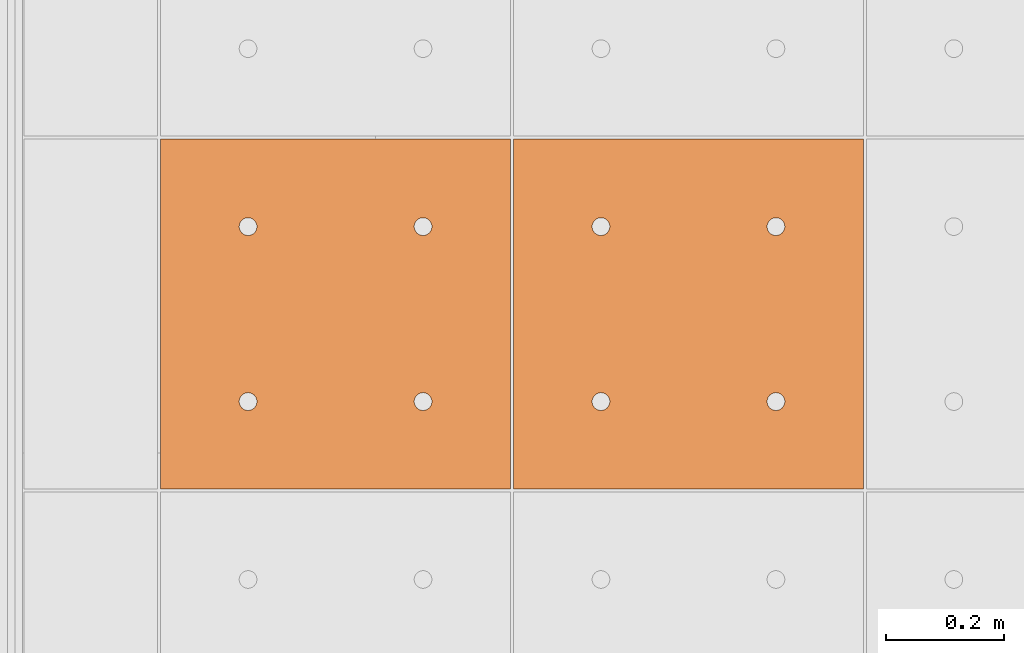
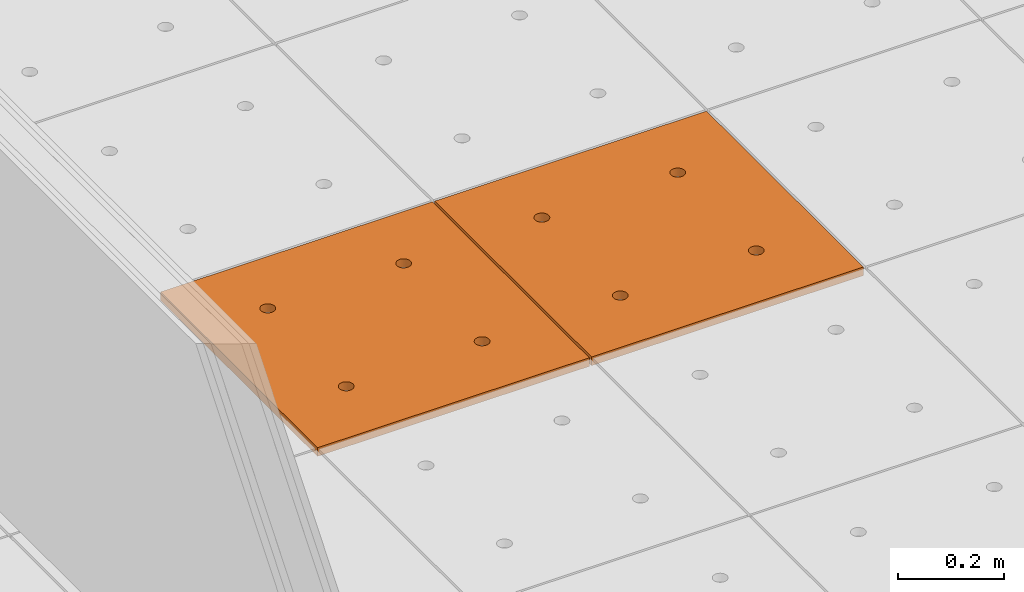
# One storey, part 270 of 338: 2 proxies, 1 element without a shape of its own.
"""IFC2X3 building model written with IfcOpenShell, lengths in millimetres."""

from ifc_helpers import new_model, entity, si_unit, converted_unit, derived_unit, money_unit, direction, frame, origin_with_axes, place, context, subcontext, project, spatial, faceted_brep, source, transform, mapped, material, type_object, type_shapes, element, aggregate, save


model = new_model("IFC2X3")

# Units and contexts
model_context = context("Model", 3, precision=0.01, world=origin_with_axes(), true_north=direction((0.0, 1.0)))
plan_context = context("Plan", 3, precision=0.01, world=origin_with_axes(), true_north=direction((0.0, 1.0)))
body_context = subcontext(model_context, "Body", "Model", "MODEL_VIEW")
ifc_project = project(units=[si_unit("LENGTHUNIT", "METRE", prefix="MILLI"), si_unit("AREAUNIT", "SQUARE_METRE"), si_unit("VOLUMEUNIT", "CUBIC_METRE"), converted_unit("PLANEANGLEUNIT", "DEGREE", entity("IfcPlaneAngleMeasure", 0.0174532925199), si_unit("PLANEANGLEUNIT", "RADIAN"), dimensions=[0, 0, 0, 0, 0, 0, 0]), money_unit("EUR"), converted_unit("TIMEUNIT", "Year", entity("IfcTimeMeasure", 31556926.0), si_unit("TIMEUNIT", "SECOND"), dimensions=[0, 0, 1, 0, 0, 0, 0]), si_unit("MASSUNIT", "GRAM", prefix="KILO"), si_unit("THERMODYNAMICTEMPERATUREUNIT", "DEGREE_CELSIUS"), si_unit("LUMINOUSINTENSITYUNIT", "LUMEN"), si_unit("ENERGYUNIT", "JOULE", prefix="MEGA"), derived_unit("THERMALCONDUCTANCEUNIT", [(si_unit("POWERUNIT", "WATT"), 1), (si_unit("LENGTHUNIT", "METRE"), -1), (si_unit("THERMODYNAMICTEMPERATUREUNIT", "KELVIN"), -1)]), derived_unit("SPECIFICHEATCAPACITYUNIT", [(si_unit("ENERGYUNIT", "JOULE"), 1), (si_unit("MASSUNIT", "GRAM", prefix="KILO"), -1), (si_unit("THERMODYNAMICTEMPERATUREUNIT", "KELVIN"), -1)]), derived_unit("MASSDENSITYUNIT", [(si_unit("MASSUNIT", "GRAM", prefix="KILO"), 1), (si_unit("VOLUMEUNIT", "CUBIC_METRE"), -1)])], contexts=[model_context, plan_context])

# Site, building, storey
site_placement = place(None, origin_with_axes())
site = spatial("IfcSite", under=ifc_project, at=site_placement, Name="Fortuinstraat Woensdrecht", CompositionType="ELEMENT")
building_placement = place(site_placement, origin_with_axes())
building = spatial("IfcBuilding", under=site, at=building_placement, Name="IKC Fortuna", CompositionType="ELEMENT")
storey_placement = place(building_placement, origin_with_axes())
storey = spatial("IfcBuildingStorey", under=building, at=storey_placement, Name="00 begane grond", CompositionType="ELEMENT", Elevation=0.0)

# Covering, proxies
covering_type = type_object("IfcCoveringType", Name="Curtain Wall Type", PredefinedType="CEILING")
covering_placement = place(storey_placement, frame((17451.9845996, 24118.5314449, 3210.0), z_axis=(0.0, 0.0, 1.0), x_axis=(1.0, 0.0, 0.0)))
covering = element("IfcCovering", 1, at=covering_placement, inside=storey, type_object=covering_type, Name="45_Plafondafwerking_P01", PredefinedType="CEILING")
ifc_material = material(Name="Gipsplaat")
building_element_proxy_type = type_object("IfcBuildingElementProxyType", Name="Main Panel 600 x 600 x 20", PredefinedType="NOTDEFINED")
shared_shape = source(origin_with_axes(), body_context, "Body", "Brep", [
    faceted_brep([(2.49999999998, 2.49999999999, -10.0), (300.0, 2.49999999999, -10.0), (300.0, 2.49999999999, 10.0), (2.49999999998, 2.49999999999, 10.0), (2.49999999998, 300.0, -10.0), (2.49999999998, 597.5, -10.0), (300.0, 597.5, -10.0), (597.5, 597.5, -10.0), (597.5, 300.0, -10.0), (597.5, 2.49999999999, -10.0), (166.25, 450.06232995, -10.0), (165.79423259, 452.64711538, -10.0), (164.896546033, 455.11348892, -10.0), (163.58421608, 457.38651108, -10.0), (161.897117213, 459.39711721, -10.0), (159.886511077, 461.08421608, -10.0), (157.613488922, 462.39654603, -10.0), (155.147115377, 463.29423259, -10.0), (152.562329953, 463.75, -10.0), (149.937670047, 463.75, -10.0), (147.352884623, 463.29423259, -10.0), (144.886511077, 462.39654603, -10.0), (142.613488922, 461.08421608, -10.0), (140.602882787, 459.39711721, -10.0), (138.91578392, 457.38651108, -10.0), (137.603453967, 455.11348892, -10.0), (136.705767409, 452.64711538, -10.0), (136.25, 450.06232995, -10.0), (136.25, 448.75, -10.0), (136.25, 447.43767005, -10.0), (136.705767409, 444.85288462, -10.0), (137.603453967, 442.38651108, -10.0), (138.91578392, 440.11348892, -10.0), (140.602882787, 438.10288279, -10.0), (142.613488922, 436.41578392, -10.0), (144.886511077, 435.10345397, -10.0), (147.352884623, 434.20576741, -10.0), (149.937670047, 433.75, -10.0), (152.562329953, 433.75, -10.0), (155.147115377, 434.20576741, -10.0), (157.613488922, 435.10345397, -10.0), (159.886511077, 436.41578392, -10.0), (161.897117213, 438.10288279, -10.0), (163.58421608, 440.11348892, -10.0), (164.896546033, 442.38651108, -10.0), (165.79423259, 444.85288462, -10.0), (166.25, 447.43767005, -10.0), (463.75, 450.06232995, -10.0), (463.29423259, 452.64711538, -10.0), (462.396546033, 455.11348892, -10.0), (461.08421608, 457.38651108, -10.0), (459.397117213, 459.39711721, -10.0), (457.386511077, 461.08421608, -10.0), (455.113488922, 462.39654603, -10.0), (452.647115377, 463.29423259, -10.0), (450.062329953, 463.75, -10.0), (447.437670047, 463.75, -10.0), (444.852884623, 463.29423259, -10.0), (442.386511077, 462.39654603, -10.0), (440.113488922, 461.08421608, -10.0), (438.102882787, 459.39711721, -10.0), (436.41578392, 457.38651108, -10.0), (435.103453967, 455.11348892, -10.0), (434.205767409, 452.64711538, -10.0), (433.75, 450.06232995, -10.0), (433.75, 448.75, -10.0), (433.75, 447.43767005, -10.0), (434.205767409, 444.85288462, -10.0), (435.103453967, 442.38651108, -10.0), (436.41578392, 440.11348892, -10.0), (438.102882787, 438.10288279, -10.0), (440.113488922, 436.41578392, -10.0), (442.386511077, 435.10345397, -10.0), (444.852884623, 434.20576741, -10.0), (447.437670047, 433.75, -10.0), (450.062329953, 433.75, -10.0), (452.647115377, 434.20576741, -10.0), (455.113488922, 435.10345397, -10.0), (457.386511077, 436.41578392, -10.0), (459.397117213, 438.10288279, -10.0), (461.08421608, 440.11348892, -10.0), (462.396546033, 442.38651108, -10.0), (463.29423259, 444.85288462, -10.0), (463.75, 447.43767005, -10.0), (463.75, 152.56232995, -10.0), (463.29423259, 155.14711538, -10.0), (462.396546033, 157.61348892, -10.0), (461.08421608, 159.88651108, -10.0), (459.397117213, 161.89711721, -10.0), (457.386511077, 163.58421608, -10.0), (455.113488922, 164.89654603, -10.0), (452.647115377, 165.79423259, -10.0), (450.062329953, 166.25, -10.0), (447.437670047, 166.25, -10.0), (444.852884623, 165.79423259, -10.0), (442.386511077, 164.89654603, -10.0), (440.113488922, 163.58421608, -10.0), (438.102882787, 161.89711721, -10.0), (436.41578392, 159.88651108, -10.0), (435.103453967, 157.61348892, -10.0), (434.205767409, 155.14711538, -10.0), (433.75, 152.56232995, -10.0), (433.75, 151.25, -10.0), (433.75, 149.93767005, -10.0), (434.205767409, 147.35288462, -10.0), (435.103453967, 144.88651108, -10.0), (436.41578392, 142.61348892, -10.0), (438.102882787, 140.60288279, -10.0), (440.113488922, 138.91578392, -10.0), (442.386511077, 137.60345397, -10.0), (444.852884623, 136.70576741, -10.0), (447.437670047, 136.25, -10.0), (450.062329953, 136.25, -10.0), (452.647115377, 136.70576741, -10.0), (455.113488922, 137.60345397, -10.0), (457.386511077, 138.91578392, -10.0), (459.397117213, 140.60288279, -10.0), (461.08421608, 142.61348892, -10.0), (462.396546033, 144.88651108, -10.0), (463.29423259, 147.35288462, -10.0), (463.75, 149.93767005, -10.0), (166.25, 152.56232995, -10.0), (165.79423259, 155.14711538, -10.0), (164.896546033, 157.61348892, -10.0), (163.58421608, 159.88651108, -10.0), (161.897117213, 161.89711721, -10.0), (159.886511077, 163.58421608, -10.0), (157.613488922, 164.89654603, -10.0), (155.147115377, 165.79423259, -10.0), (152.562329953, 166.25, -10.0), (149.937670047, 166.25, -10.0), (147.352884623, 165.79423259, -10.0), (144.886511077, 164.89654603, -10.0), (142.613488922, 163.58421608, -10.0), (140.602882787, 161.89711721, -10.0), (138.91578392, 159.88651108, -10.0), (137.603453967, 157.61348892, -10.0), (136.705767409, 155.14711538, -10.0), (136.25, 152.56232995, -10.0), (136.25, 151.25, -10.0), (136.25, 149.93767005, -10.0), (136.705767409, 147.35288462, -10.0), (137.603453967, 144.88651108, -10.0), (138.91578392, 142.61348892, -10.0), (140.602882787, 140.60288279, -10.0), (142.613488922, 138.91578392, -10.0), (144.886511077, 137.60345397, -10.0), (147.352884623, 136.70576741, -10.0), (149.937670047, 136.25, -10.0), (152.562329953, 136.25, -10.0), (155.147115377, 136.70576741, -10.0), (157.613488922, 137.60345397, -10.0), (159.886511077, 138.91578392, -10.0), (161.897117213, 140.60288279, -10.0), (163.58421608, 142.61348892, -10.0), (164.896546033, 144.88651108, -10.0), (165.79423259, 147.35288462, -10.0), (166.25, 149.93767005, -10.0), (597.5, 2.49999999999, 10.0), (597.5, 300.0, 10.0), (597.5, 597.5, 10.0), (300.0, 597.5, 10.0), (2.49999999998, 597.5, 10.0), (2.49999999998, 300.0, 10.0), (166.25, 450.06232995, 10.0), (166.25, 447.43767005, 10.0), (165.79423259, 444.85288462, 10.0), (164.896546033, 442.38651108, 10.0), (163.58421608, 440.11348892, 10.0), (161.897117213, 438.10288279, 10.0), (159.886511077, 436.41578392, 10.0), (157.613488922, 435.10345397, 10.0), (155.147115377, 434.20576741, 10.0), (152.562329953, 433.75, 10.0), (149.937670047, 433.75, 10.0), (147.352884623, 434.20576741, 10.0), (144.886511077, 435.10345397, 10.0), (142.613488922, 436.41578392, 10.0), (140.602882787, 438.10288279, 10.0), (138.91578392, 440.11348892, 10.0), (137.603453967, 442.38651108, 10.0), (136.705767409, 444.85288462, 10.0), (136.25, 447.43767005, 10.0), (136.25, 448.75, 10.0), (136.25, 450.06232995, 10.0), (136.705767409, 452.64711538, 10.0), (137.603453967, 455.11348892, 10.0), (138.91578392, 457.38651108, 10.0), (140.602882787, 459.39711721, 10.0), (142.613488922, 461.08421608, 10.0), (144.886511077, 462.39654603, 10.0), (147.352884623, 463.29423259, 10.0), (149.937670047, 463.75, 10.0), (152.562329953, 463.75, 10.0), (155.147115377, 463.29423259, 10.0), (157.613488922, 462.39654603, 10.0), (159.886511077, 461.08421608, 10.0), (161.897117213, 459.39711721, 10.0), (163.58421608, 457.38651108, 10.0), (164.896546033, 455.11348892, 10.0), (165.79423259, 452.64711538, 10.0), (463.75, 450.06232995, 10.0), (463.75, 447.43767005, 10.0), (463.29423259, 444.85288462, 10.0), (462.396546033, 442.38651108, 10.0), (461.08421608, 440.11348892, 10.0), (459.397117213, 438.10288279, 10.0), (457.386511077, 436.41578392, 10.0), (455.113488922, 435.10345397, 10.0), (452.647115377, 434.20576741, 10.0), (450.062329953, 433.75, 10.0), (447.437670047, 433.75, 10.0), (444.852884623, 434.20576741, 10.0), (442.386511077, 435.10345397, 10.0), (440.113488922, 436.41578392, 10.0), (438.102882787, 438.10288279, 10.0), (436.41578392, 440.11348892, 10.0), (435.103453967, 442.38651108, 10.0), (434.205767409, 444.85288462, 10.0), (433.75, 447.43767005, 10.0), (433.75, 448.75, 10.0), (433.75, 450.06232995, 10.0), (434.205767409, 452.64711538, 10.0), (435.103453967, 455.11348892, 10.0), (436.41578392, 457.38651108, 10.0), (438.102882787, 459.39711721, 10.0), (440.113488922, 461.08421608, 10.0), (442.386511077, 462.39654603, 10.0), (444.852884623, 463.29423259, 10.0), (447.437670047, 463.75, 10.0), (450.062329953, 463.75, 10.0), (452.647115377, 463.29423259, 10.0), (455.113488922, 462.39654603, 10.0), (457.386511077, 461.08421608, 10.0), (459.397117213, 459.39711721, 10.0), (461.08421608, 457.38651108, 10.0), (462.396546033, 455.11348892, 10.0), (463.29423259, 452.64711538, 10.0), (463.75, 152.56232995, 10.0), (463.75, 149.93767005, 10.0), (463.29423259, 147.35288462, 10.0), (462.396546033, 144.88651108, 10.0), (461.08421608, 142.61348892, 10.0), (459.397117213, 140.60288279, 10.0), (457.386511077, 138.91578392, 10.0), (455.113488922, 137.60345397, 10.0), (452.647115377, 136.70576741, 10.0), (450.062329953, 136.25, 10.0), (447.437670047, 136.25, 10.0), (444.852884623, 136.70576741, 10.0), (442.386511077, 137.60345397, 10.0), (440.113488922, 138.91578392, 10.0), (438.102882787, 140.60288279, 10.0), (436.41578392, 142.61348892, 10.0), (435.103453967, 144.88651108, 10.0), (434.205767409, 147.35288462, 10.0), (433.75, 149.93767005, 10.0), (433.75, 151.25, 10.0), (433.75, 152.56232995, 10.0), (434.205767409, 155.14711538, 10.0), (435.103453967, 157.61348892, 10.0), (436.41578392, 159.88651108, 10.0), (438.102882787, 161.89711721, 10.0), (440.113488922, 163.58421608, 10.0), (442.386511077, 164.89654603, 10.0), (444.852884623, 165.79423259, 10.0), (447.437670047, 166.25, 10.0), (450.062329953, 166.25, 10.0), (452.647115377, 165.79423259, 10.0), (455.113488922, 164.89654603, 10.0), (457.386511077, 163.58421608, 10.0), (459.397117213, 161.89711721, 10.0), (461.08421608, 159.88651108, 10.0), (462.396546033, 157.61348892, 10.0), (463.29423259, 155.14711538, 10.0), (166.25, 152.56232995, 10.0), (166.25, 149.93767005, 10.0), (165.79423259, 147.35288462, 10.0), (164.896546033, 144.88651108, 10.0), (163.58421608, 142.61348892, 10.0), (161.897117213, 140.60288279, 10.0), (159.886511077, 138.91578392, 10.0), (157.613488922, 137.60345397, 10.0), (155.147115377, 136.70576741, 10.0), (152.562329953, 136.25, 10.0), (149.937670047, 136.25, 10.0), (147.352884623, 136.70576741, 10.0), (144.886511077, 137.60345397, 10.0), (142.613488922, 138.91578392, 10.0), (140.602882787, 140.60288279, 10.0), (138.91578392, 142.61348892, 10.0), (137.603453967, 144.88651108, 10.0), (136.705767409, 147.35288462, 10.0), (136.25, 149.93767005, 10.0), (136.25, 151.25, 10.0), (136.25, 152.56232995, 10.0), (136.705767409, 155.14711538, 10.0), (137.603453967, 157.61348892, 10.0), (138.91578392, 159.88651108, 10.0), (140.602882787, 161.89711721, 10.0), (142.613488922, 163.58421608, 10.0), (144.886511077, 164.89654603, 10.0), (147.352884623, 165.79423259, 10.0), (149.937670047, 166.25, 10.0), (152.562329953, 166.25, 10.0), (155.147115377, 165.79423259, 10.0), (157.613488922, 164.89654603, 10.0), (159.886511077, 163.58421608, 10.0), (161.897117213, 161.89711721, 10.0), (163.58421608, 159.88651108, 10.0), (164.896546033, 157.61348892, 10.0), (165.79423259, 155.14711538, 10.0)], [[[0, 1, 2, 3]], [[0, 4, 5, 6, 7, 8, 9, 1], [10, 11, 12, 13, 14, 15, 16, 17, 18, 19, 20, 21, 22, 23, 24, 25, 26, 27, 28, 29, 30, 31, 32, 33, 34, 35, 36, 37, 38, 39, 40, 41, 42, 43, 44, 45, 46], [47, 48, 49, 50, 51, 52, 53, 54, 55, 56, 57, 58, 59, 60, 61, 62, 63, 64, 65, 66, 67, 68, 69, 70, 71, 72, 73, 74, 75, 76, 77, 78, 79, 80, 81, 82, 83], [84, 85, 86, 87, 88, 89, 90, 91, 92, 93, 94, 95, 96, 97, 98, 99, 100, 101, 102, 103, 104, 105, 106, 107, 108, 109, 110, 111, 112, 113, 114, 115, 116, 117, 118, 119, 120], [121, 122, 123, 124, 125, 126, 127, 128, 129, 130, 131, 132, 133, 134, 135, 136, 137, 138, 139, 140, 141, 142, 143, 144, 145, 146, 147, 148, 149, 150, 151, 152, 153, 154, 155, 156, 157]], [[1, 9, 158, 2]], [[3, 2, 158, 159, 160, 161, 162, 163], [164, 165, 166, 167, 168, 169, 170, 171, 172, 173, 174, 175, 176, 177, 178, 179, 180, 181, 182, 183, 184, 185, 186, 187, 188, 189, 190, 191, 192, 193, 194, 195, 196, 197, 198, 199, 200], [201, 202, 203, 204, 205, 206, 207, 208, 209, 210, 211, 212, 213, 214, 215, 216, 217, 218, 219, 220, 221, 222, 223, 224, 225, 226, 227, 228, 229, 230, 231, 232, 233, 234, 235, 236, 237], [238, 239, 240, 241, 242, 243, 244, 245, 246, 247, 248, 249, 250, 251, 252, 253, 254, 255, 256, 257, 258, 259, 260, 261, 262, 263, 264, 265, 266, 267, 268, 269, 270, 271, 272, 273, 274], [275, 276, 277, 278, 279, 280, 281, 282, 283, 284, 285, 286, 287, 288, 289, 290, 291, 292, 293, 294, 295, 296, 297, 298, 299, 300, 301, 302, 303, 304, 305, 306, 307, 308, 309, 310, 311]], [[4, 0, 3, 163]], [[5, 4, 163, 162]], [[6, 5, 162, 161]], [[7, 6, 161, 160]], [[8, 7, 160, 159]], [[9, 8, 159, 158]], [[11, 10, 164, 200]], [[12, 11, 200, 199]], [[13, 12, 199, 198]], [[14, 13, 198, 197]], [[15, 14, 197, 196]], [[16, 15, 196, 195]], [[17, 16, 195, 194]], [[18, 17, 194, 193]], [[19, 18, 193, 192]], [[20, 19, 192, 191]], [[21, 20, 191, 190]], [[22, 21, 190, 189]], [[23, 22, 189, 188]], [[24, 23, 188, 187]], [[25, 24, 187, 186]], [[26, 25, 186, 185]], [[27, 26, 185, 184]], [[28, 27, 184, 183]], [[29, 28, 183, 182]], [[30, 29, 182, 181]], [[31, 30, 181, 180]], [[32, 31, 180, 179]], [[33, 32, 179, 178]], [[34, 33, 178, 177]], [[35, 34, 177, 176]], [[36, 35, 176, 175]], [[37, 36, 175, 174]], [[38, 37, 174, 173]], [[39, 38, 173, 172]], [[40, 39, 172, 171]], [[41, 40, 171, 170]], [[42, 41, 170, 169]], [[43, 42, 169, 168]], [[44, 43, 168, 167]], [[45, 44, 167, 166]], [[46, 45, 166, 165]], [[10, 46, 165, 164]], [[48, 47, 201, 237]], [[49, 48, 237, 236]], [[50, 49, 236, 235]], [[51, 50, 235, 234]], [[52, 51, 234, 233]], [[53, 52, 233, 232]], [[54, 53, 232, 231]], [[55, 54, 231, 230]], [[56, 55, 230, 229]], [[57, 56, 229, 228]], [[58, 57, 228, 227]], [[59, 58, 227, 226]], [[60, 59, 226, 225]], [[61, 60, 225, 224]], [[62, 61, 224, 223]], [[63, 62, 223, 222]], [[64, 63, 222, 221]], [[65, 64, 221, 220]], [[66, 65, 220, 219]], [[67, 66, 219, 218]], [[68, 67, 218, 217]], [[69, 68, 217, 216]], [[70, 69, 216, 215]], [[71, 70, 215, 214]], [[72, 71, 214, 213]], [[73, 72, 213, 212]], [[74, 73, 212, 211]], [[75, 74, 211, 210]], [[76, 75, 210, 209]], [[77, 76, 209, 208]], [[78, 77, 208, 207]], [[79, 78, 207, 206]], [[80, 79, 206, 205]], [[81, 80, 205, 204]], [[82, 81, 204, 203]], [[83, 82, 203, 202]], [[47, 83, 202, 201]], [[85, 84, 238, 274]], [[86, 85, 274, 273]], [[87, 86, 273, 272]], [[88, 87, 272, 271]], [[89, 88, 271, 270]], [[90, 89, 270, 269]], [[91, 90, 269, 268]], [[92, 91, 268, 267]], [[93, 92, 267, 266]], [[94, 93, 266, 265]], [[95, 94, 265, 264]], [[96, 95, 264, 263]], [[97, 96, 263, 262]], [[98, 97, 262, 261]], [[99, 98, 261, 260]], [[100, 99, 260, 259]], [[101, 100, 259, 258]], [[102, 101, 258, 257]], [[103, 102, 257, 256]], [[104, 103, 256, 255]], [[105, 104, 255, 254]], [[106, 105, 254, 253]], [[107, 106, 253, 252]], [[108, 107, 252, 251]], [[109, 108, 251, 250]], [[110, 109, 250, 249]], [[111, 110, 249, 248]], [[112, 111, 248, 247]], [[113, 112, 247, 246]], [[114, 113, 246, 245]], [[115, 114, 245, 244]], [[116, 115, 244, 243]], [[117, 116, 243, 242]], [[118, 117, 242, 241]], [[119, 118, 241, 240]], [[120, 119, 240, 239]], [[84, 120, 239, 238]], [[122, 121, 275, 311]], [[123, 122, 311, 310]], [[124, 123, 310, 309]], [[125, 124, 309, 308]], [[126, 125, 308, 307]], [[127, 126, 307, 306]], [[128, 127, 306, 305]], [[129, 128, 305, 304]], [[130, 129, 304, 303]], [[131, 130, 303, 302]], [[132, 131, 302, 301]], [[133, 132, 301, 300]], [[134, 133, 300, 299]], [[135, 134, 299, 298]], [[136, 135, 298, 297]], [[137, 136, 297, 296]], [[138, 137, 296, 295]], [[139, 138, 295, 294]], [[140, 139, 294, 293]], [[141, 140, 293, 292]], [[142, 141, 292, 291]], [[143, 142, 291, 290]], [[144, 143, 290, 289]], [[145, 144, 289, 288]], [[146, 145, 288, 287]], [[147, 146, 287, 286]], [[148, 147, 286, 285]], [[149, 148, 285, 284]], [[150, 149, 284, 283]], [[151, 150, 283, 282]], [[152, 151, 282, 281]], [[153, 152, 281, 280]], [[154, 153, 280, 279]], [[155, 154, 279, 278]], [[156, 155, 278, 277]], [[157, 156, 277, 276]], [[121, 157, 276, 275]]]),
])
type_shapes(building_element_proxy_type, [shared_shape])
proxy_1_placement = place(covering_placement, origin_with_axes())
proxy_1 = element("IfcBuildingElementProxy", 2, at=proxy_1_placement, type_object=building_element_proxy_type, material=ifc_material, Name="__600x600 Rockfon Krios", context=body_context, shape_type="MappedRepresentation", body=[
    mapped(shared_shape, transform((300.0, 300.0, 0.0), x_axis=(-1.0, 0.0, 0.0), y_axis=(0.0, -1.0, 0.0), z_axis=(0.0, 0.0, 1.0))),
])
proxy_2_placement = place(covering_placement, frame((600.0, 0.0, 0.0), z_axis=(0.0, 0.0, 1.0), x_axis=(1.0, 0.0, 0.0)))
proxy_2 = element("IfcBuildingElementProxy", 3, at=proxy_2_placement, type_object=building_element_proxy_type, material=ifc_material, Name="__600x630 Rockfon Krios", context=body_context, shape_type="MappedRepresentation", body=[
    mapped(shared_shape, transform((300.0, 300.0, 0.0), x_axis=(-1.0, 0.0, 0.0), y_axis=(0.0, -1.0, 0.0), z_axis=(0.0, 0.0, 1.0))),
])
aggregate(covering, [proxy_1, proxy_2])

save(model, "model.ifc")
